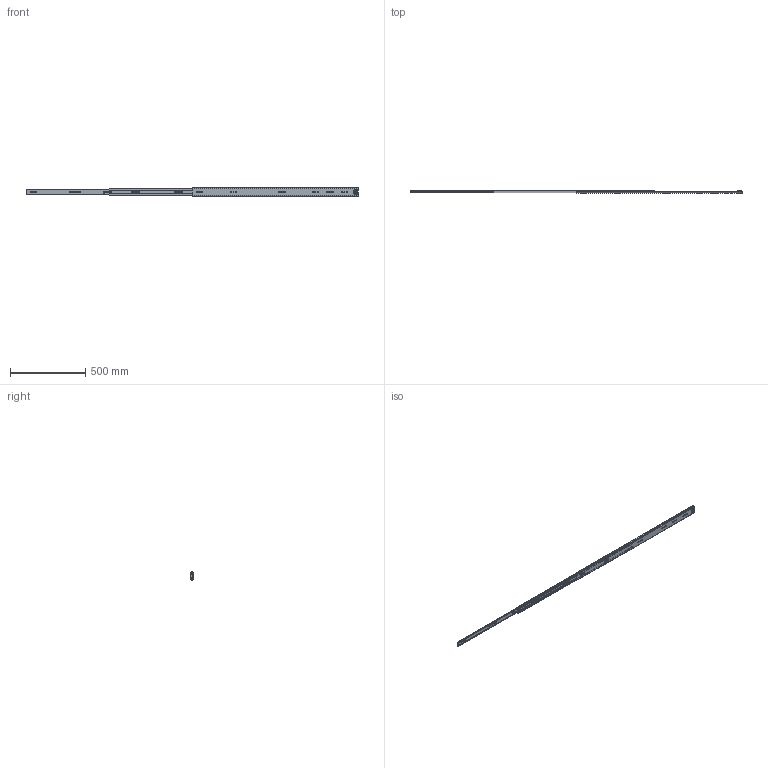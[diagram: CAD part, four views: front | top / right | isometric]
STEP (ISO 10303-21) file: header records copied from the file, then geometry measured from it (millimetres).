
FILE_DESCRIPTION((''),'2;1');
FILE_NAME('1057-02-44_ASM','2023-12-23T',('jishu015'),(''),'PRO/ENGINEER BY PARAMETRIC TECHNOLOGY CORPORATION, 2010280','PRO/ENGINEER BY PARAMETRIC TECHNOLOGY CORPORATION, 2010280','');
FILE_SCHEMA(('CONFIG_CONTROL_DESIGN'));
Products named in the file (14): KP-57-01WEIKE-18______________; 1057WEIJIAO______________; 1057DAZHUJIA-14GE______________; 1057-5-6GANZHU______________; 1057DAZHUJIA-14GE_______________ASM; KP-57-01ZHONGGUI-22_; 57-ZHONGGUIDINWEIJIAN11___; KP-57-01ZHONGGUI-22__ASM; 1057XIAOZHUJIA______________; 1057XIAOZHUJIA-14GE22__ASM; KP-57-01NEIGUI-18______________; 45TIEBACHA______________; KP-57-01NEIGUI-18_______________ASM; 1057-02-44_ASM
Assembly tree (176 placements, depth 3):
  1057-02-44_ASM
    KP-57-01WEIKE-18______________
    1057WEIJIAO______________
    1057DAZHUJIA-14GE_______________ASM
      1057DAZHUJIA-14GE______________
      1057-5-6GANZHU______________  x80
    KP-57-01ZHONGGUI-22__ASM
      KP-57-01ZHONGGUI-22_
      57-ZHONGGUIDINWEIJIAN11___
    1057XIAOZHUJIA-14GE22__ASM
      1057XIAOZHUJIA______________
      1057-5-6GANZHU______________  x84
    KP-57-01NEIGUI-18_______________ASM
      KP-57-01NEIGUI-18______________
      45TIEBACHA______________
Bounding box: 2200 x 19 x 57.67 mm (x, y, z)
Volume: 481668.9 mm3; surface area: 565778.3 mm2
Topology: 172 solids, 174 shells, 4263 faces, 11974 edges, 7392 vertices
Faces by surface type: plane 1965, cylinder 1762, sphere 336, cone 106, bspline 88, torus 6
Entity records: 132704 total; most frequent: CARTESIAN_POINT 26860, DIRECTION 22514, ORIENTED_EDGE 21964, EDGE_CURVE 10984, AXIS2_PLACEMENT_3D 7715, VECTOR 7084, LINE 7084, VERTEX_POINT 7066
